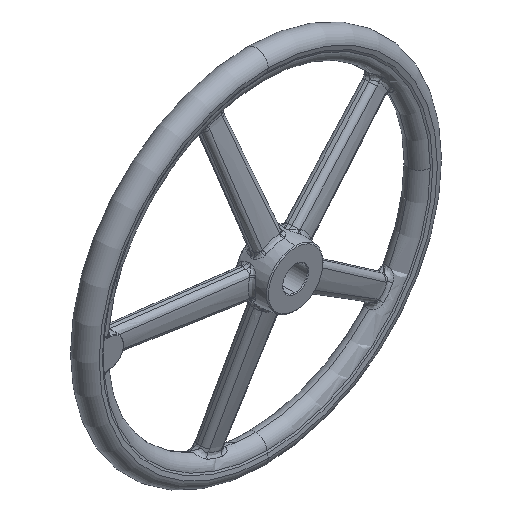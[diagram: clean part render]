
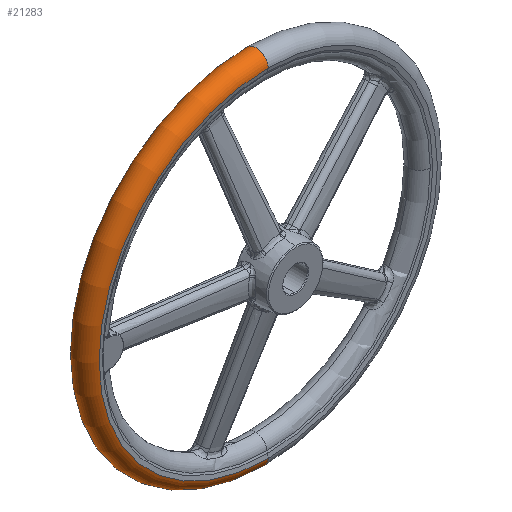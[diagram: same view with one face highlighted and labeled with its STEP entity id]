
A CAD part, isometric view. The second image highlights one B-rep face of the part: STEP entity #21283.
In plain terms, the highlighted toroidal (fillet/blend) face has major radius 232.939 mm and minor radius 17.061 mm.
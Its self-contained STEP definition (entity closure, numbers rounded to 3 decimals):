
#309 = ORIENTED_EDGE ( 'NONE', *, *, #62792, .F. ) ;
#13677 = CARTESIAN_POINT ( 'NONE',  ( 0., 72., -234.378 ) ) ;
#14693 = AXIS2_PLACEMENT_3D ( 'NONE', #14751, #14750, #14749 ) ;
#14697 = CARTESIAN_POINT ( 'NONE',  ( 0., 72., 234.378 ) ) ;
#14701 = CIRCLE ( 'NONE', #14693, 234.378 ) ;
#14749 = DIRECTION ( 'NONE',  ( 0., 0., -1. ) ) ;
#14750 = DIRECTION ( 'NONE',  ( 0., -1., 0. ) ) ;
#14751 = CARTESIAN_POINT ( 'NONE',  ( 0., 72., 0. ) ) ;
#19504 = EDGE_LOOP ( 'NONE', ( #309, #62246, #62432, #62304 ) ) ;
#21283 = ADVANCED_FACE ( 'NONE', ( #57417 ), #57414, .T. ) ;
#24615 = CARTESIAN_POINT ( 'NONE',  ( 0., 38., 234.378 ) ) ;
#24628 = CARTESIAN_POINT ( 'NONE',  ( 0., 55., -232.939 ) ) ;
#24664 = DIRECTION ( 'NONE',  ( 0., 0., 1. ) ) ;
#24665 = DIRECTION ( 'NONE',  ( -1., 0., 0. ) ) ;
#24667 = AXIS2_PLACEMENT_3D ( 'NONE', #24628, #24665, #24664 ) ;
#24674 = CIRCLE ( 'NONE', #24667, 17.061 ) ;
#24688 = CARTESIAN_POINT ( 'NONE',  ( 0., 38., -234.378 ) ) ;
#24689 = DIRECTION ( 'NONE',  ( 0., 0., -1. ) ) ;
#24690 = DIRECTION ( 'NONE',  ( 1., 0., 0. ) ) ;
#24691 = AXIS2_PLACEMENT_3D ( 'NONE', #24693, #24690, #24689 ) ;
#24692 = CIRCLE ( 'NONE', #24691, 17.061 ) ;
#24693 = CARTESIAN_POINT ( 'NONE',  ( 0., 55., 232.939 ) ) ;
#25325 = DIRECTION ( 'NONE',  ( 0., 0., -1. ) ) ;
#25326 = DIRECTION ( 'NONE',  ( 0., -1., 0. ) ) ;
#25327 = CARTESIAN_POINT ( 'NONE',  ( 0., 38., 0. ) ) ;
#25328 = AXIS2_PLACEMENT_3D ( 'NONE', #25327, #25326, #25325 ) ;
#25333 = CIRCLE ( 'NONE', #25328, 234.378 ) ;
#50710 = EDGE_CURVE ( 'NONE', #50714, #50731, #14701, .T. ) ;
#50714 = VERTEX_POINT ( 'NONE', #14697 ) ;
#50731 = VERTEX_POINT ( 'NONE', #13677 ) ;
#57401 = DIRECTION ( 'NONE',  ( 0., 0., -1. ) ) ;
#57410 = AXIS2_PLACEMENT_3D ( 'NONE', #57413, #57412, #57401 ) ;
#57412 = DIRECTION ( 'NONE',  ( 0., -1., 0. ) ) ;
#57413 = CARTESIAN_POINT ( 'NONE',  ( 0., 55., 0. ) ) ;
#57414 = TOROIDAL_SURFACE ( 'NONE', #57410, 232.939, 17.061 ) ;
#57417 = FACE_OUTER_BOUND ( 'NONE', #19504, .T. ) ;
#62246 = ORIENTED_EDGE ( 'NONE', *, *, #50710, .T. ) ;
#62304 = ORIENTED_EDGE ( 'NONE', *, *, #63067, .F. ) ;
#62432 = ORIENTED_EDGE ( 'NONE', *, *, #62765, .T. ) ;
#62763 = VERTEX_POINT ( 'NONE', #24615 ) ;
#62765 = EDGE_CURVE ( 'NONE', #50731, #62804, #24674, .T. ) ;
#62792 = EDGE_CURVE ( 'NONE', #50714, #62763, #24692, .T. ) ;
#62804 = VERTEX_POINT ( 'NONE', #24688 ) ;
#63067 = EDGE_CURVE ( 'NONE', #62763, #62804, #25333, .T. ) ;
